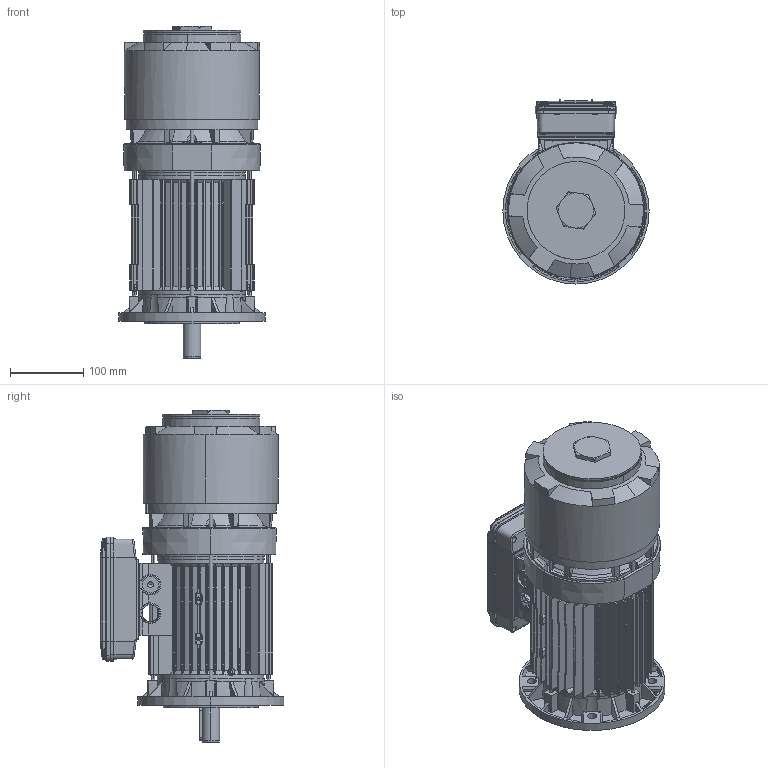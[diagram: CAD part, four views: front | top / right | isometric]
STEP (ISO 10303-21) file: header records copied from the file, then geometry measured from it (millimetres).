
FILE_DESCRIPTION (( 'STEP AP214' ), '1' );
FILE_NAME ('M08FB0011.STEP', '2019-11-08T09:11:23', ( '' ), ( '' ), 'SwSTEP 2.0', 'SolidWorks 2018', '' );
FILE_SCHEMA (( 'AUTOMOTIVE_DESIGN' ));
Length unit declared in the file: millimetre
Products named in the file (17): Convogliatore con pista d''attrito P2 BAH 90 - DDGY0018; Scudo Lato Freno BA90 P1 - DDAE0094; Carcassa 90 L B5; M08FB0011; Tappo a testa Esagonale M40x1,5; Ventola BA 90 - NT; Albero BA 90 L; Vite BAH 80; Cuffia BAH 90 - DDGV0017; Scatola per Morsettiera Doppia 90-100-112 - Completa; Guarnizione Coperchio Semplice Scatola BA 90 100 112 - DDAL0094; Vite per coperchio morsettiera; Coperchio per Scatola per Morsettiera Doppia 90-100-112; Scatola per Morsettiera Doppia 90-100-112; Tirante BA 90L - DBA60094; Scudo a flangia B5 Fi 200 BA-BM 90 - DDAA00195; Chiavetta 90
Assembly tree (22 placements, depth 3):
  M08FB0011
    Carcassa 90 L B5
    Scudo Lato Freno BA90 P1 - DDAE0094
    Convogliatore con pista d''attrito P2 BAH 90 - DDGY0018
    Chiavetta 90
    Scudo a flangia B5 Fi 200 BA-BM 90 - DDAA00195
    Tirante BA 90L - DBA60094  x4
    Scatola per Morsettiera Doppia 90-100-112 - Completa
      Scatola per Morsettiera Doppia 90-100-112
      Coperchio per Scatola per Morsettiera Doppia 90-100-112
      Vite per coperchio morsettiera  x4
      Guarnizione Coperchio Semplice Scatola BA 90 100 112 - DDAL0094
    Cuffia BAH 90 - DDGV0017
    Vite BAH 80
    Albero BA 90 L
    Ventola BA 90 - NT
    Tappo a testa Esagonale M40x1,5
Bounding box: 200 x 251.5 x 454 mm (x, y, z)
Volume: 2313660.6 mm3; surface area: 1130219.4 mm2
Topology: 25 solids, 25 shells, 3888 faces, 10459 edges, 6658 vertices
Faces by surface type: plane 1435, cylinder 1294, torus 495, cone 422, bspline 240, sphere 2
Entity records: 138967 total; most frequent: CARTESIAN_POINT 48701, ORIENTED_EDGE 19734, DIRECTION 17300, EDGE_CURVE 9867, AXIS2_PLACEMENT_3D 6620, VERTEX_POINT 6328, VECTOR 4060, LINE 4060
